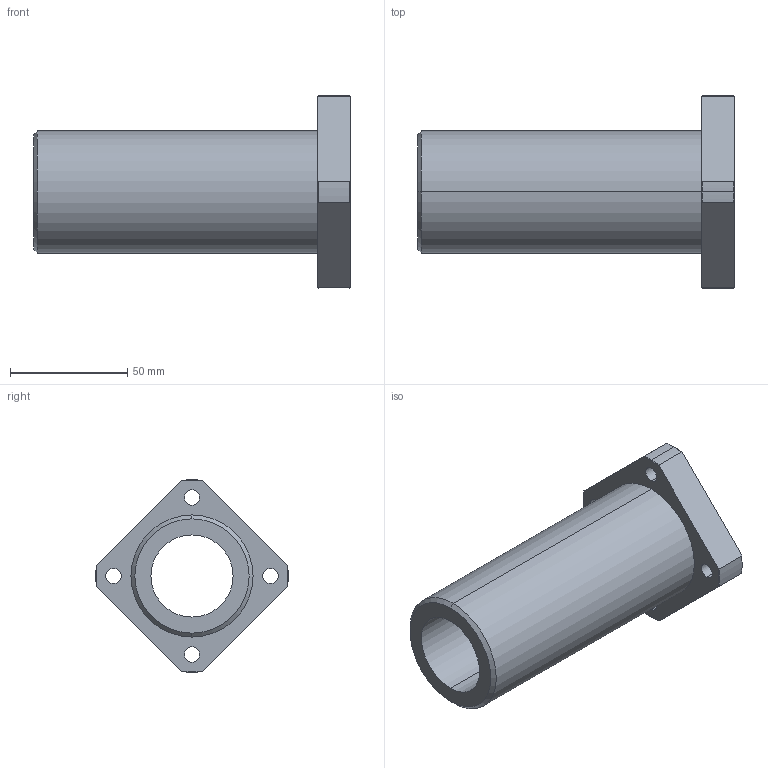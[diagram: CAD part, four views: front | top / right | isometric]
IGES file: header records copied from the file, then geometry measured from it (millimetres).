
Start section: 3D InterOp IGES (Version 21 0 1), Spatial Corp. Copyright (c) 1999-2007.
Global section: file name: DFPJ35.igs; native system: Spatial Corp.; preprocessor: 3D InterOp GENERIC/IGES 3.0; author: Noname; organization: Noname; date: 20220324.140329; units: millimetre
Bounding box: 135 x 81.94 x 82 mm (x, y, z)
Surface area: 45156.5 mm2 (no closed solid volume)
Topology: 0 solids, 0 shells, 48 faces, 240 edges, 240 vertices
Faces by surface type: revolution 37, extrusion 11
